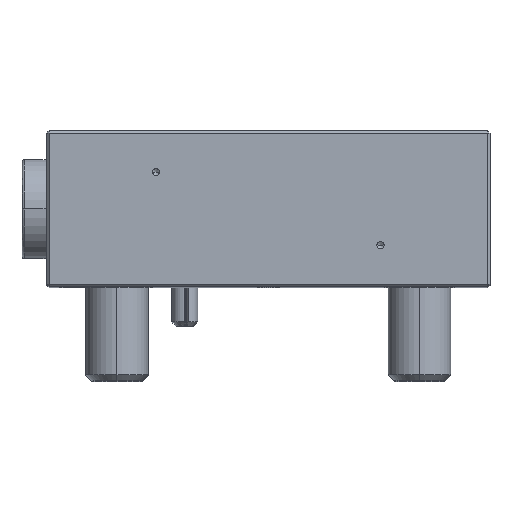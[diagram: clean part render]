
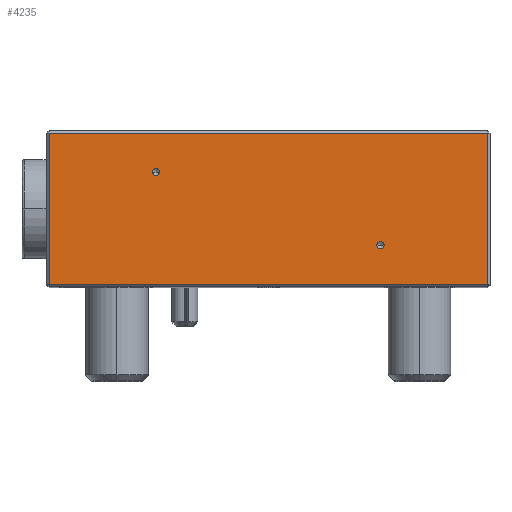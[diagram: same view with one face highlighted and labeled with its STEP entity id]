
A CAD part, top view. The second image highlights one B-rep face of the part: STEP entity #4235.
In plain terms, the highlighted planar face has unit normal (0, 0, 1).
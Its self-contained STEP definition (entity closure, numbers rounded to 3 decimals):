
#108 = CARTESIAN_POINT ( 'NONE',  ( 0.5, 14.5, 42.5 ) ) ;
#204 = EDGE_LOOP ( 'NONE', ( #1624, #7658, #8435, #1718 ) ) ;
#384 = DIRECTION ( 'NONE',  ( 0., 1., 0. ) ) ;
#659 = CARTESIAN_POINT ( 'NONE',  ( 21.7, 7., 42.5 ) ) ;
#709 = CARTESIAN_POINT ( 'NONE',  ( 84.5, -14.5, 42.5 ) ) ;
#721 = ORIENTED_EDGE ( 'NONE', *, *, #4394, .F. ) ;
#742 = AXIS2_PLACEMENT_3D ( 'NONE', #9219, #4385, #10038 ) ;
#792 = ORIENTED_EDGE ( 'NONE', *, *, #4366, .F. ) ;
#1026 = AXIS2_PLACEMENT_3D ( 'NONE', #4282, #9938, #5092 ) ;
#1297 = CARTESIAN_POINT ( 'NONE',  ( 21., 7., 42.5 ) ) ;
#1311 = ORIENTED_EDGE ( 'NONE', *, *, #3717, .F. ) ;
#1334 = CIRCLE ( 'NONE', #742, 0.7 ) ;
#1366 = VERTEX_POINT ( 'NONE', #1407 ) ;
#1407 = CARTESIAN_POINT ( 'NONE',  ( 0.5, -14.5, 42.5 ) ) ;
#1624 = ORIENTED_EDGE ( 'NONE', *, *, #4331, .T. ) ;
#1718 = ORIENTED_EDGE ( 'NONE', *, *, #4363, .T. ) ;
#2056 = CARTESIAN_POINT ( 'NONE',  ( 85., -14.5, 42.5 ) ) ;
#2123 = CARTESIAN_POINT ( 'NONE',  ( 0.5, -15., 42.5 ) ) ;
#2159 = DIRECTION ( 'NONE',  ( 1., 0., 0. ) ) ;
#2422 = LINE ( 'NONE', #5418, #9893 ) ;
#2746 = VERTEX_POINT ( 'NONE', #7182 ) ;
#2814 = VERTEX_POINT ( 'NONE', #7347 ) ;
#2906 = CARTESIAN_POINT ( 'NONE',  ( 20.3, 7., 42.5 ) ) ;
#3018 = EDGE_LOOP ( 'NONE', ( #792, #3771 ) ) ;
#3347 = VECTOR ( 'NONE', #6968, 1000. ) ;
#3441 = LINE ( 'NONE', #9395, #3347 ) ;
#3467 = LINE ( 'NONE', #2123, #10077 ) ;
#3657 = VECTOR ( 'NONE', #4542, 1000. ) ;
#3663 = EDGE_CURVE ( 'NONE', #6324, #8437, #4688, .T. ) ;
#3717 = EDGE_CURVE ( 'NONE', #2746, #9996, #1334, .T. ) ;
#3763 = CIRCLE ( 'NONE', #9802, 0.7 ) ;
#3771 = ORIENTED_EDGE ( 'NONE', *, *, #3663, .F. ) ;
#3877 = CARTESIAN_POINT ( 'NONE',  ( 64., -7., 42.5 ) ) ;
#4235 = ADVANCED_FACE ( 'NONE', ( #5953, #5882, #5608 ), #9168, .F. ) ;
#4282 = CARTESIAN_POINT ( 'NONE',  ( 21., 7., 42.5 ) ) ;
#4331 = EDGE_CURVE ( 'NONE', #1366, #9362, #9634, .T. ) ;
#4335 = EDGE_CURVE ( 'NONE', #9362, #2814, #2422, .T. ) ;
#4348 = EDGE_CURVE ( 'NONE', #2814, #4590, #3441, .T. ) ;
#4363 = EDGE_CURVE ( 'NONE', #4590, #1366, #3467, .T. ) ;
#4366 = EDGE_CURVE ( 'NONE', #8437, #6324, #3763, .T. ) ;
#4378 = CARTESIAN_POINT ( 'NONE',  ( 85., -15., 42.5 ) ) ;
#4385 = DIRECTION ( 'NONE',  ( 0., 0., 1. ) ) ;
#4394 = EDGE_CURVE ( 'NONE', #9996, #2746, #8126, .T. ) ;
#4542 = DIRECTION ( 'NONE',  ( 1., 0., 0. ) ) ;
#4590 = VERTEX_POINT ( 'NONE', #108 ) ;
#4625 = DIRECTION ( 'NONE',  ( 0., -1., 0. ) ) ;
#4688 = CIRCLE ( 'NONE', #1026, 0.7 ) ;
#4695 = DIRECTION ( 'NONE',  ( 1., 0., 0. ) ) ;
#5092 = DIRECTION ( 'NONE',  ( 1., 0., 0. ) ) ;
#5192 = DIRECTION ( 'NONE',  ( -1., 0., 0. ) ) ;
#5418 = CARTESIAN_POINT ( 'NONE',  ( 84.5, -15., 42.5 ) ) ;
#5608 = FACE_BOUND ( 'NONE', #6576, .T. ) ;
#5882 = FACE_BOUND ( 'NONE', #3018, .T. ) ;
#5953 = FACE_OUTER_BOUND ( 'NONE', #204, .T. ) ;
#6324 = VERTEX_POINT ( 'NONE', #2906 ) ;
#6576 = EDGE_LOOP ( 'NONE', ( #721, #1311 ) ) ;
#6968 = DIRECTION ( 'NONE',  ( -1., 0., 0. ) ) ;
#7010 = DIRECTION ( 'NONE',  ( 0., 0., 1. ) ) ;
#7182 = CARTESIAN_POINT ( 'NONE',  ( 63.3, -7., 42.5 ) ) ;
#7347 = CARTESIAN_POINT ( 'NONE',  ( 84.5, 14.5, 42.5 ) ) ;
#7658 = ORIENTED_EDGE ( 'NONE', *, *, #4335, .T. ) ;
#8126 = CIRCLE ( 'NONE', #9641, 0.7 ) ;
#8435 = ORIENTED_EDGE ( 'NONE', *, *, #4348, .T. ) ;
#8437 = VERTEX_POINT ( 'NONE', #659 ) ;
#9168 = PLANE ( 'NONE',  #10301 ) ;
#9219 = CARTESIAN_POINT ( 'NONE',  ( 64., -7., 42.5 ) ) ;
#9362 = VERTEX_POINT ( 'NONE', #709 ) ;
#9395 = CARTESIAN_POINT ( 'NONE',  ( 85., 14.5, 42.5 ) ) ;
#9543 = DIRECTION ( 'NONE',  ( 0., 0., 1. ) ) ;
#9588 = CARTESIAN_POINT ( 'NONE',  ( 64.7, -7., 42.5 ) ) ;
#9634 = LINE ( 'NONE', #2056, #3657 ) ;
#9641 = AXIS2_PLACEMENT_3D ( 'NONE', #3877, #9543, #4695 ) ;
#9802 = AXIS2_PLACEMENT_3D ( 'NONE', #1297, #7010, #2159 ) ;
#9893 = VECTOR ( 'NONE', #384, 1000. ) ;
#9938 = DIRECTION ( 'NONE',  ( 0., 0., 1. ) ) ;
#9996 = VERTEX_POINT ( 'NONE', #9588 ) ;
#10028 = DIRECTION ( 'NONE',  ( 0., 0., -1. ) ) ;
#10038 = DIRECTION ( 'NONE',  ( 1., 0., 0. ) ) ;
#10077 = VECTOR ( 'NONE', #4625, 1000. ) ;
#10301 = AXIS2_PLACEMENT_3D ( 'NONE', #4378, #10028, #5192 ) ;
